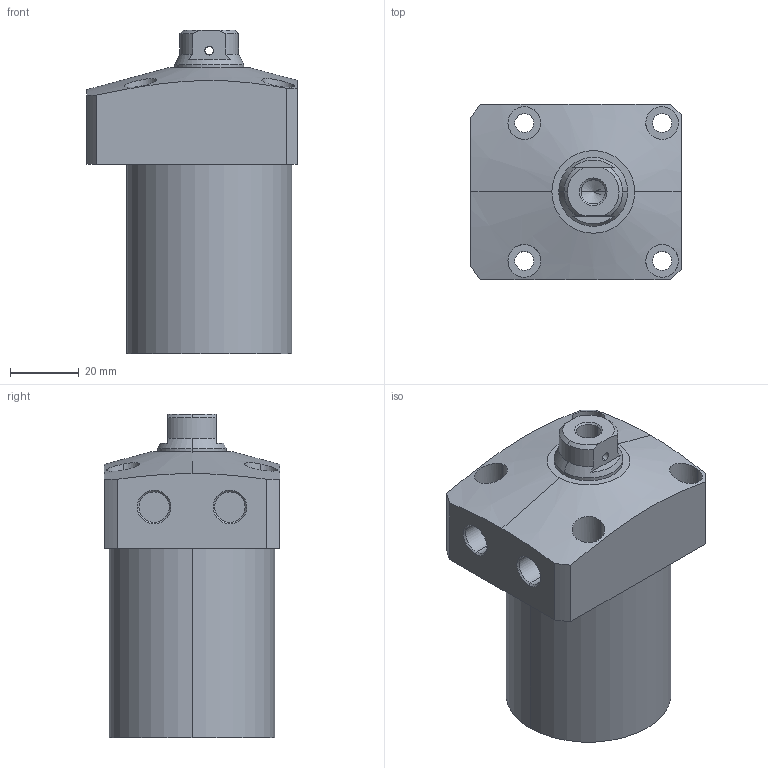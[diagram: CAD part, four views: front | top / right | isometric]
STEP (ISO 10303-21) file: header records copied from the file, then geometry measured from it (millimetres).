
FILE_DESCRIPTION (( 'STEP AP203' ), '1' );
FILE_NAME ('CLL-0480-CB-45.STEP', '2017-05-09T03:11:25', ( '' ), ( '' ), 'SwSTEP 2.0', 'SolidWorks 2015', '' );
FILE_SCHEMA (( 'CONFIG_CONTROL_DESIGN' ));
Length unit declared in the file: millimetre
Products named in the file (1): CLL-0480-CB-45
Bounding box: 61 x 51 x 94 mm (x, y, z)
Volume: 174095.5 mm3; surface area: 22895.6 mm2
Topology: 1 solids, 1 shells, 76 faces, 181 edges, 116 vertices
Faces by surface type: cylinder 39, plane 22, cone 15
Entity records: 2695 total; most frequent: CARTESIAN_POINT 818, DIRECTION 386, ORIENTED_EDGE 358, EDGE_CURVE 179, AXIS2_PLACEMENT_3D 158, VERTEX_POINT 116, EDGE_LOOP 99, CIRCLE 81
